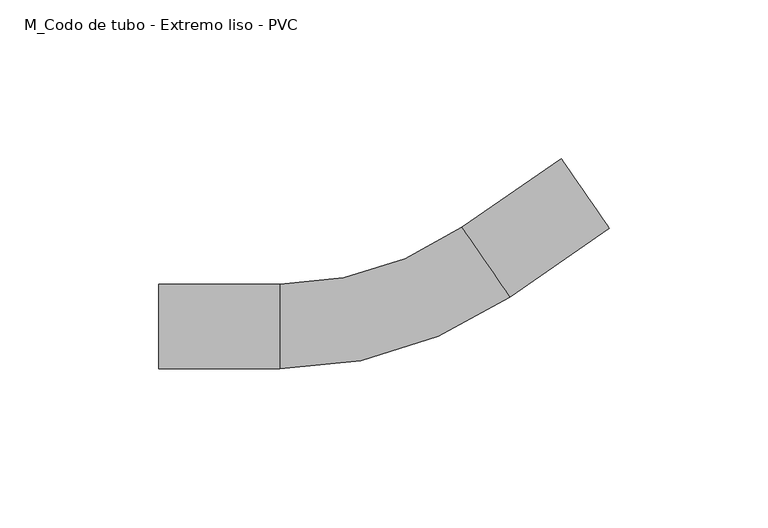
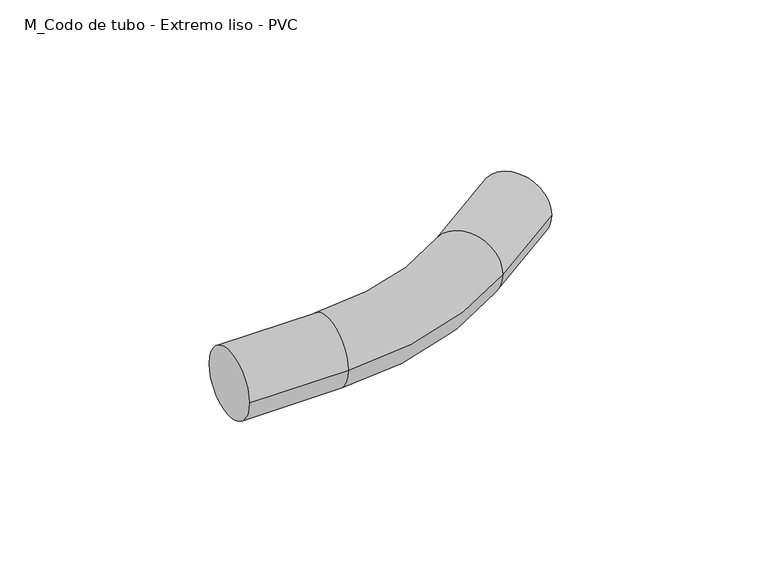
"""IFC4 building model written with IfcOpenShell, lengths in millimetres: cable carrier fitting geometry, M_Codo de tubo - Extremo liso - PVC : CODO ILUMINACION."""

from ifc_helpers import new_model, si_unit, point, frame, origin, place, context, project, spatial, circle_curve, ellipse_curve, trimmed, source, transform, mapped, element, save
from ifc_brep_helpers import plane_surface, cylinder_surface, revolved_surface, advanced_brep


def m_codo_de_tubo_extremo_liso_pvc_11955b95(model_context):
    return source(origin(), model_context, "Body", "AdvancedBrep", [
        advanced_brep(
        [(-73.7419014, -13.335, 0.0), (-73.7419014, 13.335, 0.0), (-35.6419014, -13.335, 0.0), (-35.6419014, 13.335, 0.0), (21.7453253, 31.2299245, 0.0), (36.9042154, 9.2868857, 0.0), (68.2514137, 30.9424429, 0.0), (53.0925236, 52.8854817, 0.0)],
        [
            (0, 1, circle_curve(frame((-73.7419014, 0.0, 0.0), z_axis=(-1.0, 0.0, 0.0), x_axis=(0.0, 1.0, 0.0)), 13.335)),
            (1, 0, circle_curve(frame((-73.7419014, 0.0, 0.0), z_axis=(-1.0, 0.0, 0.0), x_axis=(0.0, 1.0, 0.0)), 13.335)),
            (0, 2),
            (2, 3, circle_curve(frame((-35.6419014, 0.0, 0.0), z_axis=(-1.0, 0.0, 0.0), x_axis=(0.0, 1.0, 0.0)), 13.335)),
            (3, 1),
            (3, 2, circle_curve(frame((-35.6419014, 0.0, 0.0), z_axis=(-1.0, 0.0, 0.0), x_axis=(0.0, 1.0, 0.0)), 13.335)),
            (4, 3, circle_curve(frame((-35.6419014, 114.3, 0.0), z_axis=(0.0, 0.0, -1.0), x_axis=(0.0, -1.0, 0.0)), 100.965)),
            (2, 5, circle_curve(frame((-35.6419014, 114.3, 0.0), z_axis=(0.0, 0.0, 1.0), x_axis=(0.0, -1.0, 0.0)), 127.635)),
            (5, 4, circle_curve(frame((29.3247703, 20.2584051, 0.0), z_axis=(-0.8227611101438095, -0.5683873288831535, 0.0), x_axis=(-0.5683873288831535, 0.8227611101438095, 0.0)), 13.335)),
            (4, 5, circle_curve(frame((29.3247703, 20.2584051, 0.0), z_axis=(-0.8227611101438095, -0.5683873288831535, 0.0), x_axis=(-0.5683873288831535, 0.8227611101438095, 0.0)), 13.335)),
            (6, 7, circle_curve(frame((60.6719686, 41.9139623, 0.0), z_axis=(0.8227611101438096, 0.5683873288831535, 0.0), x_axis=(-0.5683873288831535, 0.8227611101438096, 0.0)), 13.335)),
            (7, 6, circle_curve(frame((60.6719686, 41.9139623, 0.0), z_axis=(0.8227611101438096, 0.5683873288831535, 0.0), x_axis=(-0.5683873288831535, 0.8227611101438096, 0.0)), 13.335)),
            (5, 6),
            (7, 4),
        ],
        [
            plane_surface(frame((-73.7419014, 0.0, 0.0), z_axis=(-1.0, 0.0, 0.0), x_axis=(0.0, 0.0, 1.0))),
            cylinder_surface(frame((-73.7419014, 0.0, 0.0), z_axis=(-1.0, 0.0, 0.0), x_axis=(0.0, 1.0, 0.0)), 13.335),
            revolved_surface(trimmed(ellipse_curve(frame((-35.6419014, 0.0, 0.0), z_axis=(-1.0, 0.0, 0.0), x_axis=(0.0, 1.0, 0.0)), 13.335, 13.335), [point((-35.6419014, -13.335, 0.0))], [point((-35.6419014, 13.335, 0.0))], True, "CARTESIAN"), (-35.6419014, 114.3, 0.0), (0.0, 0.0, 1.0)),
            revolved_surface(trimmed(ellipse_curve(frame((-35.6419014, 0.0, 0.0), z_axis=(-1.0, 0.0, 0.0), x_axis=(0.0, 1.0, 0.0)), 13.335, 13.335), [point((-35.6419014, 13.335, 0.0))], [point((-35.6419014, -13.335, 0.0))], True, "CARTESIAN"), (-35.6419014, 114.3, 0.0), (0.0, 0.0, 1.0)),
            plane_surface(frame((60.6719686, 41.9139623, 0.0), z_axis=(0.8227611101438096, 0.5683873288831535, 0.0), x_axis=(0.0, 0.0, 1.0))),
            cylinder_surface(frame((29.3247703, 20.2584051, 0.0), z_axis=(-0.8227611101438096, -0.5683873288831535, 0.0), x_axis=(-0.5683873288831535, 0.8227611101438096, 0.0)), 13.335),
        ],
        [
            (0, [[1, 2]]),
            (1, [[-1, 3, 4, 5]]),
            (1, [[-2, -5, 6, -3]]),
            (2, [[7, -4, 8, 9]]),
            (3, [[-8, -6, -7, 10]]),
            (4, [[11, 12]]),
            (5, [[-9, 13, -12, 14]]),
            (5, [[-10, -14, -11, -13]]),
        ],
    ),
    ])


if __name__ == "__main__":
    model = new_model("IFC4")
    model_context = context("Model", 3, world=origin())
    ifc_project = project(units=[si_unit("LENGTHUNIT", "METRE", prefix="MILLI")], contexts=[model_context])
    site = spatial("IfcSite", under=ifc_project)
    building = spatial("IfcBuilding", under=site)
    placement = place(None, origin())
    m_codo_de_tubo_extremo_liso_pvc_shape = m_codo_de_tubo_extremo_liso_pvc_11955b95(model_context)
    element("IfcCableCarrierFitting", 1, ObjectType="M_Codo de tubo - Extremo liso - PVC : CODO ILUMINACION", at=placement, inside=building, context=model_context, shape_type="MappedRepresentation", body=[
        mapped(m_codo_de_tubo_extremo_liso_pvc_shape, transform((0.0, 0.0, 0.0), x_axis=(1.0, 0.0, 0.0), y_axis=(0.0, 1.0, 0.0), z_axis=(0.0, 0.0, 1.0))),
    ])
    save(model, "model.ifc")
